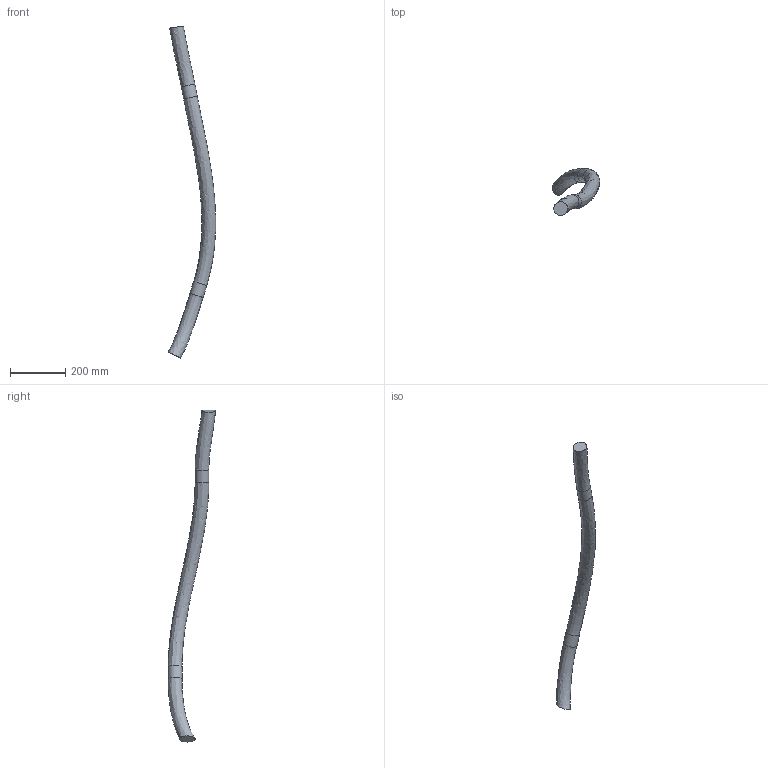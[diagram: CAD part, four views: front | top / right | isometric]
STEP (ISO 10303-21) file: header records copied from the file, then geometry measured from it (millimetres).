
FILE_DESCRIPTION (( 'STEP AP214' ), '1' );
FILE_NAME ('IRB6740-LID-MH_270kg-280_OC_00_LINK02_CABLE.step', '2026-05-07T13:14:23', ( '' ), ( '' ), 'SwSTEP 2.0', 'SolidWorks 2024', '' );
FILE_SCHEMA (( 'AUTOMOTIVE_DESIGN' ));
Length unit declared in the file: millimetre
Products named in the file (1): IRB6740-LID-MH_270kg-280_OC_00_LINK02_CABLE
Bounding box: 170.81 x 171.63 x 1197.23 mm (x, y, z)
Volume: 2410110 mm3; surface area: 197071.1 mm2
Topology: 1 solids, 1 shells, 7 faces, 11 edges, 6 vertices
Faces by surface type: bspline 3, cylinder 2, plane 2
Full cylindrical faces by diameter (mm): 50 x2
Entity records: 1427 total; most frequent: CARTESIAN_POINT 1308, DIRECTION 18, ORIENTED_EDGE 12, EDGE_LOOP 12, FACE_OUTER_BOUND 12, AXIS2_PLACEMENT_3D 9, ADVANCED_FACE 7, EDGE_CURVE 6
